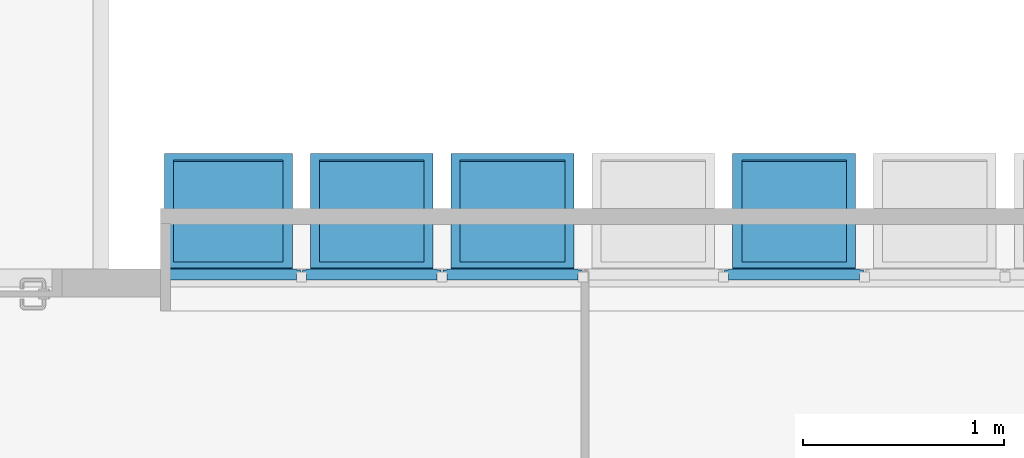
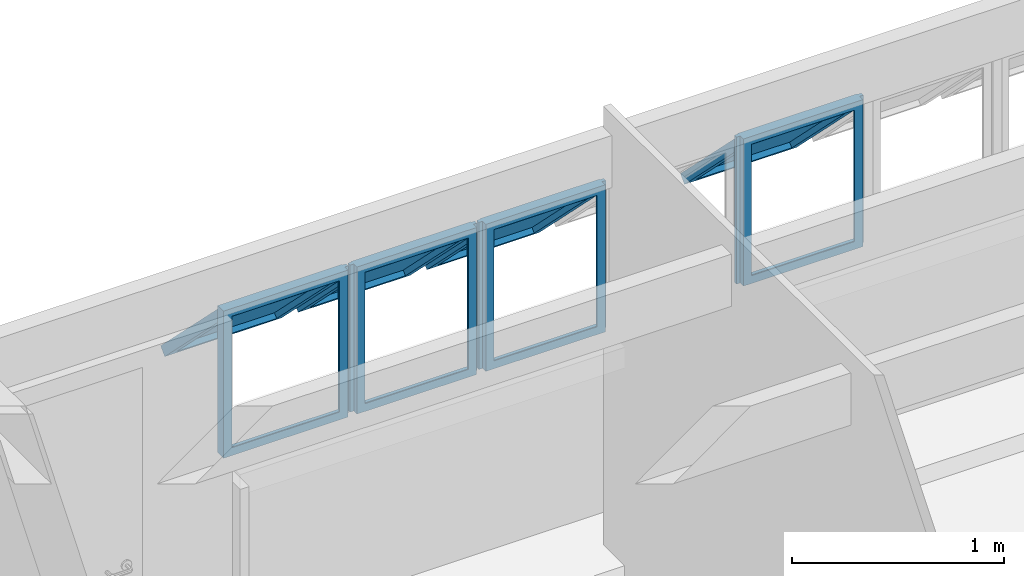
# One storey, part 9 of 41: 4 plates, 1 element without a shape of its own.
"""IFC4 building model written with IfcOpenShell, lengths in millimetres."""

from ifc_helpers import new_model, entity, si_unit, converted_unit, derived_unit, direction, frame, origin_with_axes, place, context, subcontext, project, spatial, polygons, source, transform, mapped, material, constituent, constituent_set, type_object, element, aggregate, save


model = new_model("IFC4")

# Units and contexts
model_context = context("Model", 3, precision=0.01, world=origin_with_axes(), true_north=direction((0.0, 1.0)))
body_context = subcontext(model_context, "Body", "Model", "MODEL_VIEW")
ifc_project = project(units=[si_unit("LENGTHUNIT", "METRE", prefix="MILLI"), si_unit("AREAUNIT", "SQUARE_METRE"), si_unit("VOLUMEUNIT", "CUBIC_METRE"), converted_unit("PLANEANGLEUNIT", "DEGREE", entity("IfcPlaneAngleMeasure", 0.0174532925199), si_unit("PLANEANGLEUNIT", "RADIAN"), dimensions=[0, 0, 0, 0, 0, 0, 0]), converted_unit("TIMEUNIT", "Year", entity("IfcTimeMeasure", 31556926.0), si_unit("TIMEUNIT", "SECOND"), dimensions=[0, 0, 1, 0, 0, 0, 0]), si_unit("MASSUNIT", "GRAM", prefix="KILO"), si_unit("THERMODYNAMICTEMPERATUREUNIT", "DEGREE_CELSIUS"), si_unit("LUMINOUSINTENSITYUNIT", "LUMEN"), si_unit("ENERGYUNIT", "JOULE", prefix="MEGA"), derived_unit("THERMALCONDUCTANCEUNIT", [(si_unit("POWERUNIT", "WATT"), 1), (si_unit("LENGTHUNIT", "METRE"), -1), (si_unit("THERMODYNAMICTEMPERATUREUNIT", "KELVIN"), -1)]), derived_unit("SPECIFICHEATCAPACITYUNIT", [(si_unit("ENERGYUNIT", "JOULE"), 1), (si_unit("MASSUNIT", "GRAM", prefix="KILO"), -1), (si_unit("THERMODYNAMICTEMPERATUREUNIT", "KELVIN"), -1)]), derived_unit("MASSDENSITYUNIT", [(si_unit("MASSUNIT", "GRAM", prefix="KILO"), 1), (si_unit("VOLUMEUNIT", "CUBIC_METRE"), -1)])], contexts=[model_context])

# Site, building, storey
site_placement = place(None, origin_with_axes())
site = spatial("IfcSite", under=ifc_project, at=site_placement, Name="Local", CompositionType="ELEMENT")
building_placement = place(site_placement, origin_with_axes())
building = spatial("IfcBuilding", under=site, at=building_placement, Name="Construção", CompositionType="ELEMENT")
storey_placement = place(building_placement, frame((0.0, 0.0, 2650.0), z_axis=(0.0, 0.0, 1.0), x_axis=(1.0, 0.0, 0.0)))
storey = spatial("IfcBuildingStorey", under=building, at=storey_placement, Name="Segundo Pavimento", CompositionType="ELEMENT", Elevation=2650.0)

# Window, plates
window_type = type_object("IfcWindowType", Name="Tipo de Parede Cortina", PartitioningType="NOTDEFINED", PredefinedType="NOTDEFINED")
window_placement = place(storey_placement, frame((12020.0, 8250.0, 1355.00007107), z_axis=(0.0, 0.0, 1.0), x_axis=(1.0, 0.0, 0.0)))
window = element("IfcWindow", 1, at=window_placement, inside=storey, type_object=window_type, Name="APTO6-JANELA-000", PredefinedType="NOTDEFINED")
ifc_material_1 = material(Name="Alumínio")
ifc_constituent_1 = constituent(ifc_material_1, Name="Alumínio")
ifc_material_2 = material(Name="Vidro")
ifc_constituent_2 = constituent(ifc_material_2, Name="Vidro")
ifc_constituent_set_1 = constituent_set(constituents=[ifc_constituent_1, ifc_constituent_2])
plate_type_1 = type_object("IfcPlateType", Name="Painel Principal 690 x 845 x 20", PredefinedType="CURTAIN_PANEL")
shared_shape_1 = source(origin_with_axes(), body_context, "Body", "Tessellation", [
    polygons([(25.0000036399, 0.0, -40.0), (674.999997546, 0.0, -40.0), (674.999997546, 0.0, -35.0), (25.0000036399, 0.0, -35.0), (70.0000036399, 45.0, -40.0), (629.999997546, 45.0, -40.0), (629.999997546, 45.0, -35.0), (70.0000036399, 45.0, -35.0)], [[[1, 2, 3, 4]], [[1, 5, 6, 2]], [[2, 6, 7, 3]], [[4, 3, 7, 8]], [[5, 1, 4, 8]], [[6, 5, 8, 7]]], closed=True),
    polygons([(674.999997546, 0.0, -40.0), (674.999997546, 844.999891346, -40.0), (674.999997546, 844.999891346, -35.0), (674.999997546, 0.0, -35.0), (629.999997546, 45.0, -40.0), (629.999997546, 799.999891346, -40.0), (629.999997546, 799.999891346, -35.0), (629.999997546, 45.0, -35.0)], [[[1, 2, 3, 4]], [[1, 5, 6, 2]], [[2, 6, 7, 3]], [[4, 3, 7, 8]], [[5, 1, 4, 8]], [[6, 5, 8, 7]]], closed=True),
    polygons([(25.0000036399, 844.999891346, -40.0), (70.0000036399, 799.999891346, -40.0), (70.0000036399, 799.999891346, -35.0), (25.0000036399, 844.999891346, -35.0), (674.999997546, 844.999891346, -40.0), (629.999997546, 799.999891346, -40.0), (629.999997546, 799.999891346, -35.0), (674.999997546, 844.999891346, -35.0)], [[[1, 2, 3, 4]], [[1, 5, 6, 2]], [[2, 6, 7, 3]], [[4, 3, 7, 8]], [[5, 1, 4, 8]], [[6, 5, 8, 7]]], closed=True),
    polygons([(25.0000036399, 0.0, -40.0), (70.0000036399, 45.0, -40.0), (70.0000036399, 45.0, -35.0), (25.0000036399, 0.0, -35.0), (25.0000036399, 844.999891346, -40.0), (70.0000036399, 799.999891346, -40.0), (70.0000036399, 799.999891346, -35.0), (25.0000036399, 844.999891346, -35.0)], [[[1, 2, 3, 4]], [[1, 5, 6, 2]], [[2, 6, 7, 3]], [[4, 3, 7, 8]], [[5, 1, 4, 8]], [[6, 5, 8, 7]]], closed=True),
    polygons([(25.0000036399, 0.0, -35.0), (674.999997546, 0.0, -35.0), (674.999997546, 0.0, 15.0), (25.0000036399, 0.0, 15.0), (45.0000036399, 20.0, -35.0), (654.999997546, 20.0, -35.0), (654.999997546, 20.0, 15.0), (45.0000036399, 20.0, 15.0)], [[[1, 2, 3, 4]], [[1, 5, 6, 2]], [[2, 6, 7, 3]], [[4, 3, 7, 8]], [[5, 1, 4, 8]], [[6, 5, 8, 7]]], closed=True),
    polygons([(674.999997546, 0.0, -35.0), (674.999997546, 844.999891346, -35.0), (674.999997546, 844.999891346, 15.0), (674.999997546, 0.0, 15.0), (654.999997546, 20.0, -35.0), (654.999997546, 824.999891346, -35.0), (654.999997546, 824.999891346, 15.0), (654.999997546, 20.0, 15.0)], [[[1, 2, 3, 4]], [[1, 5, 6, 2]], [[2, 6, 7, 3]], [[4, 3, 7, 8]], [[5, 1, 4, 8]], [[6, 5, 8, 7]]], closed=True),
    polygons([(25.0000036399, 844.999891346, -35.0), (45.0000036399, 824.999891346, -35.0), (45.0000036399, 824.999891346, 15.0), (25.0000036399, 844.999891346, 15.0), (674.999997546, 844.999891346, -35.0), (654.999997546, 824.999891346, -35.0), (654.999997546, 824.999891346, 15.0), (674.999997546, 844.999891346, 15.0)], [[[1, 2, 3, 4]], [[1, 5, 6, 2]], [[2, 6, 7, 3]], [[4, 3, 7, 8]], [[5, 1, 4, 8]], [[6, 5, 8, 7]]], closed=True),
    polygons([(25.0000036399, 0.0, -35.0), (45.0000036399, 20.0, -35.0), (45.0000036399, 20.0, 15.0), (25.0000036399, 0.0, 15.0), (25.0000036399, 844.999891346, -35.0), (45.0000036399, 824.999891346, -35.0), (45.0000036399, 824.999891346, 15.0), (25.0000036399, 844.999891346, 15.0)], [[[1, 2, 3, 4]], [[1, 5, 6, 2]], [[2, 6, 7, 3]], [[4, 3, 7, 8]], [[5, 1, 4, 8]], [[6, 5, 8, 7]]], closed=True),
    polygons([(694.999995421, 0.0, -10.0), (694.999995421, 844.999891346, -10.0), (694.999995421, 844.999891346, 10.0), (694.999995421, 0.0, 10.0), (674.999997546, 0.0, -10.0), (674.999997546, 844.999891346, -10.0), (674.999997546, 844.999891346, 10.0), (674.999997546, 0.0, 10.0)], [[[1, 2, 3, 4]], [[1, 5, 6, 2]], [[2, 6, 7, 3]], [[4, 3, 7, 8]], [[5, 1, 4, 8]], [[6, 5, 8, 7]]], closed=True),
    polygons([(5.00000576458, 844.999891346, -10.0), (5.00000576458, 0.0, -10.0), (5.00000576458, 0.0, 10.0), (5.00000576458, 844.999891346, 10.0), (25.0000036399, 844.999891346, -10.0), (25.0000036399, 0.0, -10.0), (25.0000036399, 0.0, 10.0), (25.0000036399, 844.999891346, 10.0)], [[[1, 2, 3, 4]], [[1, 5, 6, 2]], [[2, 6, 7, 3]], [[4, 3, 7, 8]], [[5, 1, 4, 8]], [[6, 5, 8, 7]]], closed=True),
    polygons([(90.0000036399, 252.243475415, 517.045737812), (90.0000036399, 757.824747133, 11.4644660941), (90.0000036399, 796.715620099, 50.3553390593), (90.0000036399, 291.13434838, 555.936610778), (45.0000036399, 220.423670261, 548.865542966), (45.0000036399, 789.644552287, -20.3553390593), (45.0000036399, 828.535425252, 18.5355339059), (45.0000036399, 259.314543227, 587.756415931)], [[[1, 2, 3, 4]], [[1, 5, 6, 2]], [[2, 6, 7, 3]], [[4, 3, 7, 8]], [[5, 1, 4, 8]], [[6, 5, 8, 7]]], closed=True),
    polygons([(654.999997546, 220.423670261, 548.865542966), (654.999997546, 789.644552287, -20.3553390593), (654.999997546, 828.535425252, 18.5355339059), (654.999997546, 259.314543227, 587.756415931), (609.999997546, 252.243475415, 517.045737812), (609.999997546, 757.824747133, 11.4644660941), (609.999997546, 796.715620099, 50.3553390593), (609.999997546, 291.13434838, 555.936610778)], [[[1, 2, 3, 4]], [[1, 5, 6, 2]], [[2, 6, 7, 3]], [[4, 3, 7, 8]], [[5, 1, 4, 8]], [[6, 5, 8, 7]]], closed=True),
    polygons([(654.999997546, 220.423670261, 548.865542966), (609.999997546, 252.243475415, 517.045737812), (609.999997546, 291.13434838, 555.936610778), (654.999997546, 259.314543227, 587.756415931), (45.0000036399, 220.423670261, 548.865542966), (90.0000036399, 252.243475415, 517.045737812), (90.0000036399, 291.13434838, 555.936610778), (45.0000036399, 259.314543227, 587.756415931)], [[[1, 2, 3, 4]], [[1, 5, 6, 2]], [[2, 6, 7, 3]], [[4, 3, 7, 8]], [[5, 1, 4, 8]], [[6, 5, 8, 7]]], closed=True),
    polygons([(45.0000036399, 789.644552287, -20.3553390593), (90.0000036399, 757.824747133, 11.4644660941), (90.0000036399, 796.715620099, 50.3553390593), (45.0000036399, 828.535425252, 18.5355339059), (654.999997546, 789.644552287, -20.3553390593), (609.999997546, 757.824747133, 11.4644660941), (609.999997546, 796.715620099, 50.3553390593), (654.999997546, 828.535425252, 18.5355339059)], [[[1, 2, 3, 4]], [[1, 5, 6, 2]], [[2, 6, 7, 3]], [[4, 3, 7, 8]], [[5, 1, 4, 8]], [[6, 5, 8, 7]]], closed=True),
    polygons([(90.0000036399, 272.749572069, 537.551834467), (609.999997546, 272.749572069, 537.551834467), (609.999997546, 284.063280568, 548.865542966), (90.0000036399, 284.063280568, 548.865542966), (90.0000036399, 778.330843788, 31.9705627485), (609.999997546, 778.330843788, 31.9705627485), (609.999997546, 789.644552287, 43.2842712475), (90.0000036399, 789.644552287, 43.2842712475)], [[[1, 2, 3, 4]], [[1, 5, 6, 2]], [[2, 6, 7, 3]], [[4, 3, 7, 8]], [[5, 1, 4, 8]], [[6, 5, 8, 7]]], closed=True),
])
plate_1_placement = place(window_placement, frame((0.0, 0.0, 422.499964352), z_axis=(0.0, 0.0, 1.0), x_axis=(1.0, 0.0, 0.0)))
plate_1 = element("IfcPlate", 2, at=plate_1_placement, type_object=plate_type_1, material=ifc_constituent_set_1, Name="APTO6-Painel-Prin-013", PredefinedType="CURTAIN_PANEL", context=body_context, shape_type="MappedRepresentation", body=[
    mapped(shared_shape_1, transform((350.0, 0.0, -422.499964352), x_axis=(-1.0, 0.0, 0.0), y_axis=(0.0, 0.0, 1.0), z_axis=(0.0, 1.0, 0.0))),
])
ifc_constituent_3 = constituent(ifc_material_1, Name="Alumínio")
ifc_constituent_4 = constituent(ifc_material_2, Name="Vidro")
ifc_constituent_set_2 = constituent_set(constituents=[ifc_constituent_3, ifc_constituent_4])
plate_2_placement = place(window_placement, frame((-2100.0, 0.0, 422.499964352), z_axis=(0.0, 0.0, 1.0), x_axis=(1.0, 0.0, 0.0)))
plate_2 = element("IfcPlate", 3, at=plate_2_placement, type_object=plate_type_1, material=ifc_constituent_set_2, Name="APTO6-Painel-Prin-029", PredefinedType="CURTAIN_PANEL", context=body_context, shape_type="MappedRepresentation", body=[
    mapped(shared_shape_1, transform((350.0, 0.0, -422.499964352), x_axis=(-1.0, 0.0, 0.0), y_axis=(0.0, 0.0, 1.0), z_axis=(0.0, 1.0, 0.0))),
])
ifc_constituent_5 = constituent(ifc_material_1, Name="Alumínio")
ifc_constituent_6 = constituent(ifc_material_2, Name="Vidro")
ifc_constituent_set_3 = constituent_set(constituents=[ifc_constituent_5, ifc_constituent_6])
shared_shape_2 = source(origin_with_axes(), body_context, "Body", "Tessellation", [
    polygons([(25.0000036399, 0.0, -40.0), (674.999997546, 0.0, -40.0), (674.999997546, 0.0, -35.0), (25.0000036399, 0.0, -35.0), (70.0000036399, 45.0, -40.0), (629.999997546, 45.0, -40.0), (629.999997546, 45.0, -35.0), (70.0000036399, 45.0, -35.0)], [[[1, 2, 3, 4]], [[1, 5, 6, 2]], [[2, 6, 7, 3]], [[4, 3, 7, 8]], [[5, 1, 4, 8]], [[6, 5, 8, 7]]], closed=True),
    polygons([(674.999997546, 0.0, -40.0), (674.999997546, 844.999891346, -40.0), (674.999997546, 844.999891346, -35.0), (674.999997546, 0.0, -35.0), (629.999997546, 45.0, -40.0), (629.999997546, 799.999891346, -40.0), (629.999997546, 799.999891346, -35.0), (629.999997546, 45.0, -35.0)], [[[1, 2, 3, 4]], [[1, 5, 6, 2]], [[2, 6, 7, 3]], [[4, 3, 7, 8]], [[5, 1, 4, 8]], [[6, 5, 8, 7]]], closed=True),
    polygons([(25.0000036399, 844.999891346, -40.0), (70.0000036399, 799.999891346, -40.0), (70.0000036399, 799.999891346, -35.0), (25.0000036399, 844.999891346, -35.0), (674.999997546, 844.999891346, -40.0), (629.999997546, 799.999891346, -40.0), (629.999997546, 799.999891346, -35.0), (674.999997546, 844.999891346, -35.0)], [[[1, 2, 3, 4]], [[1, 5, 6, 2]], [[2, 6, 7, 3]], [[4, 3, 7, 8]], [[5, 1, 4, 8]], [[6, 5, 8, 7]]], closed=True),
    polygons([(25.0000036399, 0.0, -40.0), (70.0000036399, 45.0, -40.0), (70.0000036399, 45.0, -35.0), (25.0000036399, 0.0, -35.0), (25.0000036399, 844.999891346, -40.0), (70.0000036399, 799.999891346, -40.0), (70.0000036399, 799.999891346, -35.0), (25.0000036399, 844.999891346, -35.0)], [[[1, 2, 3, 4]], [[1, 5, 6, 2]], [[2, 6, 7, 3]], [[4, 3, 7, 8]], [[5, 1, 4, 8]], [[6, 5, 8, 7]]], closed=True),
    polygons([(25.0000036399, 0.0, -35.0), (674.999997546, 0.0, -35.0), (674.999997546, 0.0, 15.0), (25.0000036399, 0.0, 15.0), (45.0000036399, 20.0, -35.0), (654.999997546, 20.0, -35.0), (654.999997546, 20.0, 15.0), (45.0000036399, 20.0, 15.0)], [[[1, 2, 3, 4]], [[1, 5, 6, 2]], [[2, 6, 7, 3]], [[4, 3, 7, 8]], [[5, 1, 4, 8]], [[6, 5, 8, 7]]], closed=True),
    polygons([(674.999997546, 0.0, -35.0), (674.999997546, 844.999891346, -35.0), (674.999997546, 844.999891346, 15.0), (674.999997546, 0.0, 15.0), (654.999997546, 20.0, -35.0), (654.999997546, 824.999891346, -35.0), (654.999997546, 824.999891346, 15.0), (654.999997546, 20.0, 15.0)], [[[1, 2, 3, 4]], [[1, 5, 6, 2]], [[2, 6, 7, 3]], [[4, 3, 7, 8]], [[5, 1, 4, 8]], [[6, 5, 8, 7]]], closed=True),
    polygons([(25.0000036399, 844.999891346, -35.0), (45.0000036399, 824.999891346, -35.0), (45.0000036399, 824.999891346, 15.0), (25.0000036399, 844.999891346, 15.0), (674.999997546, 844.999891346, -35.0), (654.999997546, 824.999891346, -35.0), (654.999997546, 824.999891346, 15.0), (674.999997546, 844.999891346, 15.0)], [[[1, 2, 3, 4]], [[1, 5, 6, 2]], [[2, 6, 7, 3]], [[4, 3, 7, 8]], [[5, 1, 4, 8]], [[6, 5, 8, 7]]], closed=True),
    polygons([(25.0000036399, 0.0, -35.0), (45.0000036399, 20.0, -35.0), (45.0000036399, 20.0, 15.0), (25.0000036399, 0.0, 15.0), (25.0000036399, 844.999891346, -35.0), (45.0000036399, 824.999891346, -35.0), (45.0000036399, 824.999891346, 15.0), (25.0000036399, 844.999891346, 15.0)], [[[1, 2, 3, 4]], [[1, 5, 6, 2]], [[2, 6, 7, 3]], [[4, 3, 7, 8]], [[5, 1, 4, 8]], [[6, 5, 8, 7]]], closed=True),
    polygons([(694.999995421, 0.0, -10.0), (694.999995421, 844.999891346, -10.0), (694.999995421, 844.999891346, 10.0), (694.999995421, 0.0, 10.0), (674.999997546, 0.0, -10.0), (674.999997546, 844.999891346, -10.0), (674.999997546, 844.999891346, 10.0), (674.999997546, 0.0, 10.0)], [[[1, 2, 3, 4]], [[1, 5, 6, 2]], [[2, 6, 7, 3]], [[4, 3, 7, 8]], [[5, 1, 4, 8]], [[6, 5, 8, 7]]], closed=True),
    polygons([(5.00000576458, 844.999891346, -10.0), (5.00000576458, 0.0, -10.0), (5.00000576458, 0.0, 10.0), (5.00000576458, 844.999891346, 10.0), (25.0000036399, 844.999891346, -10.0), (25.0000036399, 0.0, -10.0), (25.0000036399, 0.0, 10.0), (25.0000036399, 844.999891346, 10.0)], [[[1, 2, 3, 4]], [[1, 5, 6, 2]], [[2, 6, 7, 3]], [[4, 3, 7, 8]], [[5, 1, 4, 8]], [[6, 5, 8, 7]]], closed=True),
    polygons([(90.0000036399, 252.243475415, 517.045737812), (90.0000036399, 757.824747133, 11.4644660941), (90.0000036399, 796.715620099, 50.3553390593), (90.0000036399, 291.13434838, 555.936610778), (45.0000036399, 220.423670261, 548.865542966), (45.0000036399, 789.644552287, -20.3553390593), (45.0000036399, 828.535425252, 18.5355339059), (45.0000036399, 259.314543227, 587.756415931)], [[[1, 2, 3, 4]], [[1, 5, 6, 2]], [[2, 6, 7, 3]], [[4, 3, 7, 8]], [[5, 1, 4, 8]], [[6, 5, 8, 7]]], closed=True),
    polygons([(654.999997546, 220.423670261, 548.865542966), (654.999997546, 789.644552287, -20.3553390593), (654.999997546, 828.535425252, 18.5355339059), (654.999997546, 259.314543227, 587.756415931), (609.999997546, 252.243475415, 517.045737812), (609.999997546, 757.824747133, 11.4644660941), (609.999997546, 796.715620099, 50.3553390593), (609.999997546, 291.13434838, 555.936610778)], [[[1, 2, 3, 4]], [[1, 5, 6, 2]], [[2, 6, 7, 3]], [[4, 3, 7, 8]], [[5, 1, 4, 8]], [[6, 5, 8, 7]]], closed=True),
    polygons([(654.999997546, 220.423670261, 548.865542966), (609.999997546, 252.243475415, 517.045737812), (609.999997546, 291.13434838, 555.936610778), (654.999997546, 259.314543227, 587.756415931), (45.0000036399, 220.423670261, 548.865542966), (90.0000036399, 252.243475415, 517.045737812), (90.0000036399, 291.13434838, 555.936610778), (45.0000036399, 259.314543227, 587.756415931)], [[[1, 2, 3, 4]], [[1, 5, 6, 2]], [[2, 6, 7, 3]], [[4, 3, 7, 8]], [[5, 1, 4, 8]], [[6, 5, 8, 7]]], closed=True),
    polygons([(45.0000036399, 789.644552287, -20.3553390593), (90.0000036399, 757.824747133, 11.4644660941), (90.0000036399, 796.715620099, 50.3553390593), (45.0000036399, 828.535425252, 18.5355339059), (654.999997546, 789.644552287, -20.3553390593), (609.999997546, 757.824747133, 11.4644660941), (609.999997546, 796.715620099, 50.3553390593), (654.999997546, 828.535425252, 18.5355339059)], [[[1, 2, 3, 4]], [[1, 5, 6, 2]], [[2, 6, 7, 3]], [[4, 3, 7, 8]], [[5, 1, 4, 8]], [[6, 5, 8, 7]]], closed=True),
    polygons([(90.0000036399, 272.749572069, 537.551834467), (609.999997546, 272.749572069, 537.551834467), (609.999997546, 284.063280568, 548.865542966), (90.0000036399, 284.063280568, 548.865542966), (90.0000036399, 778.330843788, 31.9705627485), (609.999997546, 778.330843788, 31.9705627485), (609.999997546, 789.644552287, 43.2842712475), (90.0000036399, 789.644552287, 43.2842712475)], [[[1, 2, 3, 4]], [[1, 5, 6, 2]], [[2, 6, 7, 3]], [[4, 3, 7, 8]], [[5, 1, 4, 8]], [[6, 5, 8, 7]]], closed=True),
])
plate_3_placement = place(window_placement, frame((-1400.0, 0.0, 422.499964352), z_axis=(0.0, 0.0, 1.0), x_axis=(1.0, 0.0, 0.0)))
plate_3 = element("IfcPlate", 4, at=plate_3_placement, type_object=plate_type_1, material=ifc_constituent_set_3, Name="APTO6-Painel-Prin-025", PredefinedType="CURTAIN_PANEL", context=body_context, shape_type="MappedRepresentation", body=[
    mapped(shared_shape_2, transform((350.0, 0.0, -422.499964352), x_axis=(-1.0, 0.0, 0.0), y_axis=(0.0, 0.0, 1.0), z_axis=(0.0, 1.0, 0.0))),
])
ifc_constituent_7 = constituent(ifc_material_1, Name="Alumínio")
ifc_constituent_8 = constituent(ifc_material_2, Name="Vidro")
ifc_constituent_set_4 = constituent_set(constituents=[ifc_constituent_7, ifc_constituent_8])
plate_type_2 = type_object("IfcPlateType", Name="Painel Principal 695 x 845 x 20", PredefinedType="CURTAIN_PANEL")
shared_shape_3 = source(origin_with_axes(), body_context, "Body", "Tessellation", [
    polygons([(25.0000062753, 0.0, -40.0), (699.999999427, 0.0, -40.0), (699.999999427, 0.0, -35.0), (25.0000062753, 0.0, -35.0), (70.0000062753, 45.0, -40.0), (654.999999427, 45.0, -40.0), (654.999999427, 45.0, -35.0), (70.0000062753, 45.0, -35.0)], [[[1, 2, 3, 4]], [[1, 5, 6, 2]], [[2, 6, 7, 3]], [[4, 3, 7, 8]], [[5, 1, 4, 8]], [[6, 5, 8, 7]]], closed=True),
    polygons([(699.999999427, 0.0, -40.0), (699.999999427, 844.999980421, -40.0), (699.999999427, 844.999980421, -35.0), (699.999999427, 0.0, -35.0), (654.999999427, 45.0, -40.0), (654.999999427, 799.999980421, -40.0), (654.999999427, 799.999980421, -35.0), (654.999999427, 45.0, -35.0)], [[[1, 2, 3, 4]], [[1, 5, 6, 2]], [[2, 6, 7, 3]], [[4, 3, 7, 8]], [[5, 1, 4, 8]], [[6, 5, 8, 7]]], closed=True),
    polygons([(25.0000062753, 844.999980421, -40.0), (70.0000062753, 799.999980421, -40.0), (70.0000062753, 799.999980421, -35.0), (25.0000062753, 844.999980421, -35.0), (699.999999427, 844.999980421, -40.0), (654.999999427, 799.999980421, -40.0), (654.999999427, 799.999980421, -35.0), (699.999999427, 844.999980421, -35.0)], [[[1, 2, 3, 4]], [[1, 5, 6, 2]], [[2, 6, 7, 3]], [[4, 3, 7, 8]], [[5, 1, 4, 8]], [[6, 5, 8, 7]]], closed=True),
    polygons([(25.0000062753, 0.0, -40.0), (70.0000062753, 45.0, -40.0), (70.0000062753, 45.0, -35.0), (25.0000062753, 0.0, -35.0), (25.0000062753, 844.999980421, -40.0), (70.0000062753, 799.999980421, -40.0), (70.0000062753, 799.999980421, -35.0), (25.0000062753, 844.999980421, -35.0)], [[[1, 2, 3, 4]], [[1, 5, 6, 2]], [[2, 6, 7, 3]], [[4, 3, 7, 8]], [[5, 1, 4, 8]], [[6, 5, 8, 7]]], closed=True),
    polygons([(25.0000062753, 0.0, -35.0), (699.999999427, 0.0, -35.0), (699.999999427, 0.0, 15.0), (25.0000062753, 0.0, 15.0), (45.0000062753, 20.0, -35.0), (679.999999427, 20.0, -35.0), (679.999999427, 20.0, 15.0), (45.0000062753, 20.0, 15.0)], [[[1, 2, 3, 4]], [[1, 5, 6, 2]], [[2, 6, 7, 3]], [[4, 3, 7, 8]], [[5, 1, 4, 8]], [[6, 5, 8, 7]]], closed=True),
    polygons([(699.999999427, 0.0, -35.0), (699.999999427, 844.999980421, -35.0), (699.999999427, 844.999980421, 15.0), (699.999999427, 0.0, 15.0), (679.999999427, 20.0, -35.0), (679.999999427, 824.999980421, -35.0), (679.999999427, 824.999980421, 15.0), (679.999999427, 20.0, 15.0)], [[[1, 2, 3, 4]], [[1, 5, 6, 2]], [[2, 6, 7, 3]], [[4, 3, 7, 8]], [[5, 1, 4, 8]], [[6, 5, 8, 7]]], closed=True),
    polygons([(25.0000062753, 844.999980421, -35.0), (45.0000062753, 824.999980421, -35.0), (45.0000062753, 824.999980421, 15.0), (25.0000062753, 844.999980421, 15.0), (699.999999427, 844.999980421, -35.0), (679.999999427, 824.999980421, -35.0), (679.999999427, 824.999980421, 15.0), (699.999999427, 844.999980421, 15.0)], [[[1, 2, 3, 4]], [[1, 5, 6, 2]], [[2, 6, 7, 3]], [[4, 3, 7, 8]], [[5, 1, 4, 8]], [[6, 5, 8, 7]]], closed=True),
    polygons([(25.0000062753, 0.0, -35.0), (45.0000062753, 20.0, -35.0), (45.0000062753, 20.0, 15.0), (25.0000062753, 0.0, 15.0), (25.0000062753, 844.999980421, -35.0), (45.0000062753, 824.999980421, -35.0), (45.0000062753, 824.999980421, 15.0), (25.0000062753, 844.999980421, 15.0)], [[[1, 2, 3, 4]], [[1, 5, 6, 2]], [[2, 6, 7, 3]], [[4, 3, 7, 8]], [[5, 1, 4, 8]], [[6, 5, 8, 7]]], closed=True),
    polygons([(5.00000629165, 844.999980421, -10.0), (5.00000629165, 0.0, -10.0), (5.00000629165, 0.0, 10.0), (5.00000629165, 844.999980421, 10.0), (25.0000062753, 844.999980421, -10.0), (25.0000062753, 0.0, -10.0), (25.0000062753, 0.0, 10.0), (25.0000062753, 844.999980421, 10.0)], [[[1, 2, 3, 4]], [[1, 5, 6, 2]], [[2, 6, 7, 3]], [[4, 3, 7, 8]], [[5, 1, 4, 8]], [[6, 5, 8, 7]]], closed=True),
    polygons([(90.0000062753, 252.243501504, 517.045800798), (90.0000062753, 757.824836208, 11.4644660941), (90.0000062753, 796.715709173, 50.3553390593), (90.0000062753, 291.134374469, 555.936673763), (45.0000062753, 220.423696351, 548.865605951), (45.0000062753, 789.644641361, -20.3553390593), (45.0000062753, 828.535514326, 18.5355339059), (45.0000062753, 259.314569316, 587.756478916)], [[[1, 2, 3, 4]], [[1, 5, 6, 2]], [[2, 6, 7, 3]], [[4, 3, 7, 8]], [[5, 1, 4, 8]], [[6, 5, 8, 7]]], closed=True),
    polygons([(679.999999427, 220.423696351, 548.865605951), (679.999999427, 789.644641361, -20.3553390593), (679.999999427, 828.535514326, 18.5355339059), (679.999999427, 259.314569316, 587.756478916), (634.999999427, 252.243501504, 517.045800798), (634.999999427, 757.824836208, 11.4644660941), (634.999999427, 796.715709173, 50.3553390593), (634.999999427, 291.134374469, 555.936673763)], [[[1, 2, 3, 4]], [[1, 5, 6, 2]], [[2, 6, 7, 3]], [[4, 3, 7, 8]], [[5, 1, 4, 8]], [[6, 5, 8, 7]]], closed=True),
    polygons([(679.999999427, 220.423696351, 548.865605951), (634.999999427, 252.243501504, 517.045800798), (634.999999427, 291.134374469, 555.936673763), (679.999999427, 259.314569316, 587.756478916), (45.0000062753, 220.423696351, 548.865605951), (90.0000062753, 252.243501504, 517.045800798), (90.0000062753, 291.134374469, 555.936673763), (45.0000062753, 259.314569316, 587.756478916)], [[[1, 2, 3, 4]], [[1, 5, 6, 2]], [[2, 6, 7, 3]], [[4, 3, 7, 8]], [[5, 1, 4, 8]], [[6, 5, 8, 7]]], closed=True),
    polygons([(45.0000062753, 789.644641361, -20.3553390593), (90.0000062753, 757.824836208, 11.4644660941), (90.0000062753, 796.715709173, 50.3553390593), (45.0000062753, 828.535514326, 18.5355339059), (679.999999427, 789.644641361, -20.3553390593), (634.999999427, 757.824836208, 11.4644660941), (634.999999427, 796.715709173, 50.3553390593), (679.999999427, 828.535514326, 18.5355339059)], [[[1, 2, 3, 4]], [[1, 5, 6, 2]], [[2, 6, 7, 3]], [[4, 3, 7, 8]], [[5, 1, 4, 8]], [[6, 5, 8, 7]]], closed=True),
    polygons([(90.0000062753, 272.749598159, 537.551897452), (634.999999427, 272.749598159, 537.551897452), (634.999999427, 284.063306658, 548.865605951), (90.0000062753, 284.063306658, 548.865605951), (90.0000062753, 778.330932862, 31.9705627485), (634.999999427, 778.330932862, 31.9705627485), (634.999999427, 789.644641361, 43.2842712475), (90.0000062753, 789.644641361, 43.2842712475)], [[[1, 2, 3, 4]], [[1, 5, 6, 2]], [[2, 6, 7, 3]], [[4, 3, 7, 8]], [[5, 1, 4, 8]], [[6, 5, 8, 7]]], closed=True),
])
plate_4_placement = place(window_placement, frame((-2800.0, 0.0, 422.499986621), z_axis=(0.0, 0.0, 1.0), x_axis=(1.0, 0.0, 0.0)))
plate_4 = element("IfcPlate", 5, at=plate_4_placement, type_object=plate_type_2, material=ifc_constituent_set_4, Name="APTO6-Painel-Prin-020", PredefinedType="CURTAIN_PANEL", context=body_context, shape_type="MappedRepresentation", body=[
    mapped(shared_shape_3, transform((350.0, 0.0, -422.499986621), x_axis=(-1.0, 0.0, 0.0), y_axis=(0.0, 0.0, 1.0), z_axis=(0.0, 1.0, 0.0))),
])
aggregate(window, [plate_1, plate_2, plate_3, plate_4])

save(model, "model.ifc")
